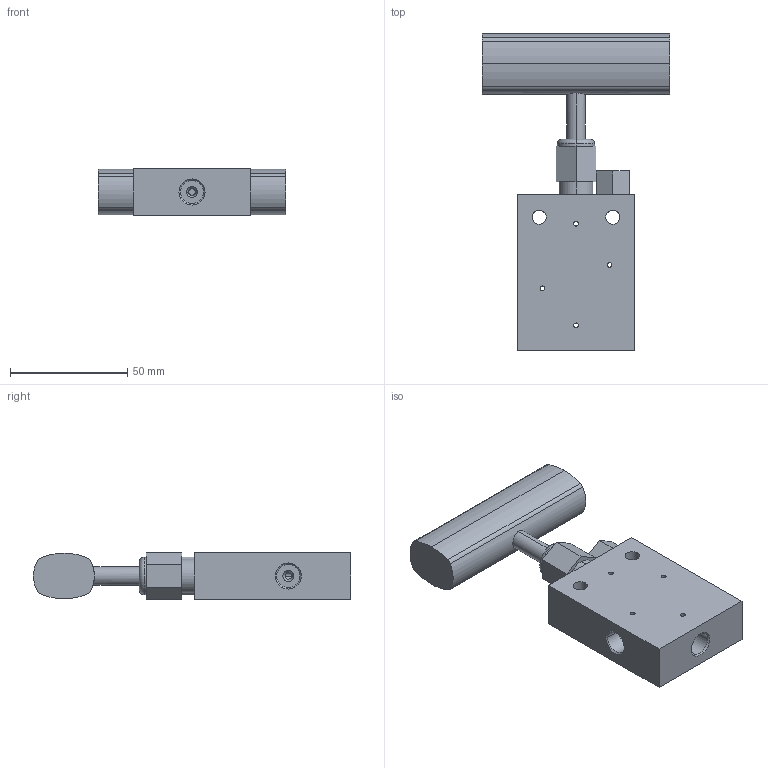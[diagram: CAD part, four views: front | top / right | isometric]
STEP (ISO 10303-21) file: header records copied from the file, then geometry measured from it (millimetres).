
FILE_DESCRIPTION (( 'STEP AP203' ), '1' );
FILE_NAME ('NV20VS04-T-00-00.STEP', '2023-02-23T07:35:13', ( 'USER' ), ( '' ), 'SwSTEP 2.0', 'SolidWorks 2020', '' );
FILE_SCHEMA (( 'CONFIG_CONTROL_DESIGN' ));
Length unit declared in the file: millimetre
Products named in the file (1): NV20VS04-T-00-00
Bounding box: 80 x 135.1 x 20 mm (x, y, z)
Volume: 103588.6 mm3; surface area: 23390.4 mm2
Topology: 1 solids, 1 shells, 102 faces, 251 edges, 158 vertices
Faces by surface type: cylinder 53, plane 29, cone 18, torus 2
Entity records: 3580 total; most frequent: CARTESIAN_POINT 1000, DIRECTION 537, ORIENTED_EDGE 502, EDGE_CURVE 251, AXIS2_PLACEMENT_3D 207, VERTEX_POINT 158, EDGE_LOOP 133, LINE 123
